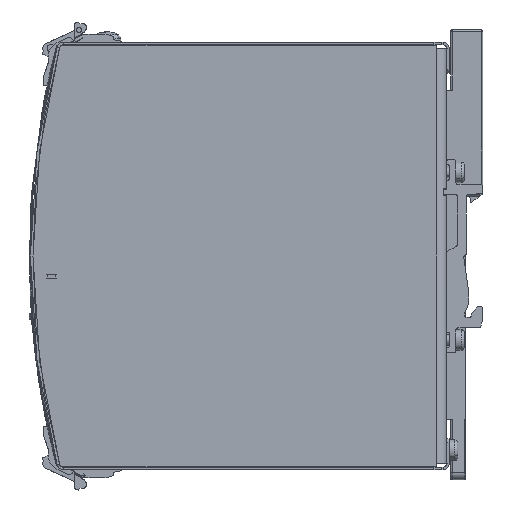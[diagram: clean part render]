
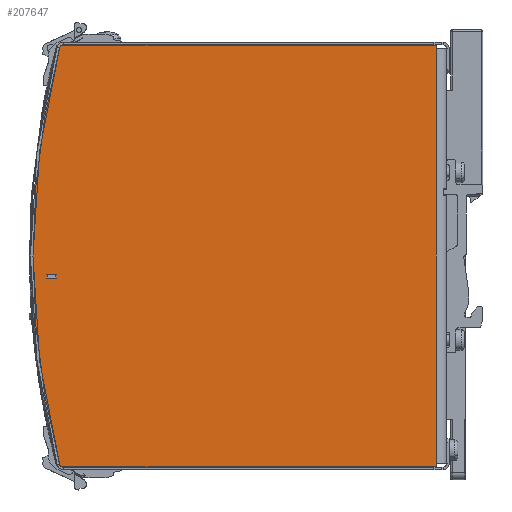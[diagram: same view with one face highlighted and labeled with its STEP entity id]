
A CAD part, left-side view. The second image highlights one B-rep face of the part: STEP entity #207647.
In plain terms, the highlighted planar face has unit normal (-1, 0, 0) as drawn and (0, -1, 0) by its records, which use the part's own axes.
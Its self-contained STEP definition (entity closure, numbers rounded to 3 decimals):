
#1310 = EDGE_CURVE ( 'NONE', #22687, #42383, #139162, .T. ) ;
#13283 = CARTESIAN_POINT ( 'NONE',  ( 3., -24., 61.15 ) ) ;
#15423 = DIRECTION ( 'NONE',  ( 0., 0., -1. ) ) ;
#17010 = VERTEX_POINT ( 'NONE', #56872 ) ;
#21420 = CARTESIAN_POINT ( 'NONE',  ( 3., -24., -60.15 ) ) ;
#22687 = VERTEX_POINT ( 'NONE', #249557 ) ;
#26652 = LINE ( 'NONE', #100885, #84142 ) ;
#28225 = CARTESIAN_POINT ( 'NONE',  ( 112.275, -24., 60.402 ) ) ;
#28808 = AXIS2_PLACEMENT_3D ( 'NONE', #158559, #57119, #159846 ) ;
#30745 = FACE_OUTER_BOUND ( 'NONE', #62524, .T. ) ;
#32018 = ORIENTED_EDGE ( 'NONE', *, *, #103216, .T. ) ;
#34866 = DIRECTION ( 'NONE',  ( 0., -1., 0. ) ) ;
#37810 = CIRCLE ( 'NONE', #58435, 240. ) ;
#39923 = CARTESIAN_POINT ( 'NONE',  ( 3., -24., 61.15 ) ) ;
#42383 = VERTEX_POINT ( 'NONE', #21420 ) ;
#43572 = EDGE_CURVE ( 'NONE', #250128, #213245, #37810, .T. ) ;
#49858 = AXIS2_PLACEMENT_3D ( 'NONE', #104111, #141869, #221178 ) ;
#51021 = DIRECTION ( 'NONE',  ( 0., 0., -1. ) ) ;
#54508 = DIRECTION ( 'NONE',  ( 0., -1., 0. ) ) ;
#55175 = EDGE_CURVE ( 'NONE', #213245, #81503, #144852, .T. ) ;
#56872 = CARTESIAN_POINT ( 'NONE',  ( 111.307, -24., 61.15 ) ) ;
#57119 = DIRECTION ( 'NONE',  ( 0., 1., 0. ) ) ;
#58103 = DIRECTION ( 'NONE',  ( -1., 0., 0. ) ) ;
#58435 = AXIS2_PLACEMENT_3D ( 'NONE', #177828, #34866, #94677 ) ;
#62313 = CIRCLE ( 'NONE', #49858, 1. ) ;
#62524 = EDGE_LOOP ( 'NONE', ( #135150, #218951, #101263, #166768, #101839, #32018, #210687, #92676, #255443 ) ) ;
#64801 = EDGE_CURVE ( 'NONE', #116864, #220717, #95825, .T. ) ;
#74011 = CARTESIAN_POINT ( 'NONE',  ( -120., -24., 0. ) ) ;
#81503 = VERTEX_POINT ( 'NONE', #28225 ) ;
#84142 = VECTOR ( 'NONE', #143728, 1000. ) ;
#87863 = EDGE_CURVE ( 'NONE', #250128, #116864, #62313, .T. ) ;
#92676 = ORIENTED_EDGE ( 'NONE', *, *, #100809, .T. ) ;
#94563 = CARTESIAN_POINT ( 'NONE',  ( 111.307, -24., -61.15 ) ) ;
#94677 = DIRECTION ( 'NONE',  ( -0.967, 0., -0.255 ) ) ;
#94682 = VECTOR ( 'NONE', #218468, 1000. ) ;
#95825 = LINE ( 'NONE', #94563, #255665 ) ;
#100809 = EDGE_CURVE ( 'NONE', #42383, #220717, #252146, .T. ) ;
#100885 = CARTESIAN_POINT ( 'NONE',  ( 111.307, -24., 61.15 ) ) ;
#101263 = ORIENTED_EDGE ( 'NONE', *, *, #55175, .T. ) ;
#101839 = ORIENTED_EDGE ( 'NONE', *, *, #226742, .T. ) ;
#103216 = EDGE_CURVE ( 'NONE', #228706, #22687, #191427, .T. ) ;
#104111 = CARTESIAN_POINT ( 'NONE',  ( 111.307, -24., -60.15 ) ) ;
#106763 = CARTESIAN_POINT ( 'NONE',  ( 111.307, -24., -61.15 ) ) ;
#112426 = VECTOR ( 'NONE', #15423, 1000. ) ;
#116864 = VERTEX_POINT ( 'NONE', #106763 ) ;
#117792 = AXIS2_PLACEMENT_3D ( 'NONE', #167280, #188054, #228386 ) ;
#133842 = DIRECTION ( 'NONE',  ( -0.967, 0., -0.255 ) ) ;
#135150 = ORIENTED_EDGE ( 'NONE', *, *, #87863, .F. ) ;
#139162 = LINE ( 'NONE', #180732, #94682 ) ;
#141869 = DIRECTION ( 'NONE',  ( 0., 1., 0. ) ) ;
#143728 = DIRECTION ( 'NONE',  ( -1., 0., 0. ) ) ;
#144852 = CIRCLE ( 'NONE', #194554, 240. ) ;
#158559 = CARTESIAN_POINT ( 'NONE',  ( 111.307, -24., 60.15 ) ) ;
#159846 = DIRECTION ( 'NONE',  ( 0.612, 0., 0.791 ) ) ;
#166768 = ORIENTED_EDGE ( 'NONE', *, *, #205208, .F. ) ;
#167280 = CARTESIAN_POINT ( 'NONE',  ( 130., -24., -61.15 ) ) ;
#177828 = CARTESIAN_POINT ( 'NONE',  ( -120., -24., 0. ) ) ;
#180732 = CARTESIAN_POINT ( 'NONE',  ( 3., -24., 60.15 ) ) ;
#188054 = DIRECTION ( 'NONE',  ( 0., -1., 0. ) ) ;
#191427 = LINE ( 'NONE', #13283, #246216 ) ;
#193547 = CARTESIAN_POINT ( 'NONE',  ( 3., -24., -60.15 ) ) ;
#194554 = AXIS2_PLACEMENT_3D ( 'NONE', #74011, #54508, #133842 ) ;
#205208 = EDGE_CURVE ( 'NONE', #17010, #81503, #224095, .T. ) ;
#207647 = ADVANCED_FACE ( 'NONE', ( #30745 ), #249187, .T. ) ;
#210687 = ORIENTED_EDGE ( 'NONE', *, *, #1310, .T. ) ;
#213245 = VERTEX_POINT ( 'NONE', #229327 ) ;
#218468 = DIRECTION ( 'NONE',  ( 0., 0., -1. ) ) ;
#218951 = ORIENTED_EDGE ( 'NONE', *, *, #43572, .T. ) ;
#220717 = VERTEX_POINT ( 'NONE', #255476 ) ;
#221178 = DIRECTION ( 'NONE',  ( 0.612, 0., -0.791 ) ) ;
#224095 = CIRCLE ( 'NONE', #28808, 1. ) ;
#226742 = EDGE_CURVE ( 'NONE', #17010, #228706, #26652, .T. ) ;
#228386 = DIRECTION ( 'NONE',  ( 0., 0., -1. ) ) ;
#228706 = VERTEX_POINT ( 'NONE', #39923 ) ;
#229327 = CARTESIAN_POINT ( 'NONE',  ( 120., -24., 0. ) ) ;
#246216 = VECTOR ( 'NONE', #51021, 1000. ) ;
#247565 = CARTESIAN_POINT ( 'NONE',  ( 112.275, -24., -60.402 ) ) ;
#249187 = PLANE ( 'NONE',  #117792 ) ;
#249557 = CARTESIAN_POINT ( 'NONE',  ( 3., -24., 60.15 ) ) ;
#250128 = VERTEX_POINT ( 'NONE', #247565 ) ;
#252146 = LINE ( 'NONE', #193547, #112426 ) ;
#255443 = ORIENTED_EDGE ( 'NONE', *, *, #64801, .F. ) ;
#255476 = CARTESIAN_POINT ( 'NONE',  ( 3., -24., -61.15 ) ) ;
#255665 = VECTOR ( 'NONE', #58103, 1000. ) ;
